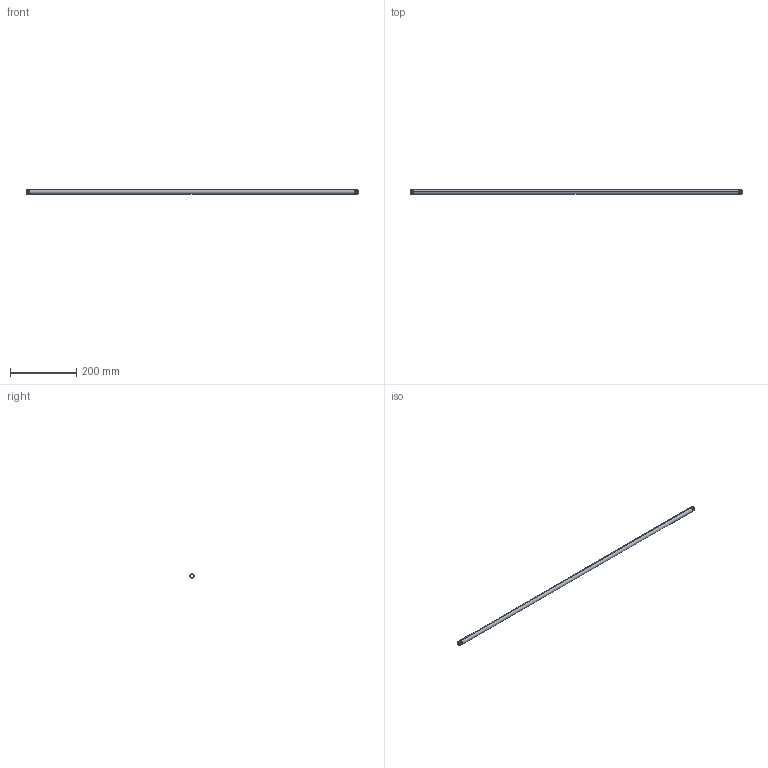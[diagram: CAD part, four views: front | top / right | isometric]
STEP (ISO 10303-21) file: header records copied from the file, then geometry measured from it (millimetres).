
FILE_DESCRIPTION (( 'STEP AP203' ), '1' );
FILE_NAME ('3D_R210_1-4x1000_17191605.STEP', '2024-08-16T14:48:01', ( '' ), ( '' ), 'SwSTEP 2.0', 'SolidWorks 2024', '' );
FILE_SCHEMA (( 'CONFIG_CONTROL_DESIGN' ));
Length unit declared in the file: millimetre
Products named in the file (1): 3D_R210_1-4x1000_17191605
Bounding box: 1000 x 13.49 x 13.5 mm (x, y, z)
Volume: 72008.5 mm3; surface area: 72750.6 mm2
Topology: 1 solids, 1 shells, 60 faces, 166 edges, 108 vertices
Faces by surface type: cone 46, bspline 6, cylinder 4, plane 4
Entity records: 8741 total; most frequent: CARTESIAN_POINT 7339, ORIENTED_EDGE 332, DIRECTION 194, EDGE_CURVE 166, VERTEX_POINT 108, B_SPLINE_CURVE_WITH_KNOTS 88, AXIS2_PLACEMENT_3D 69, EDGE_LOOP 62
